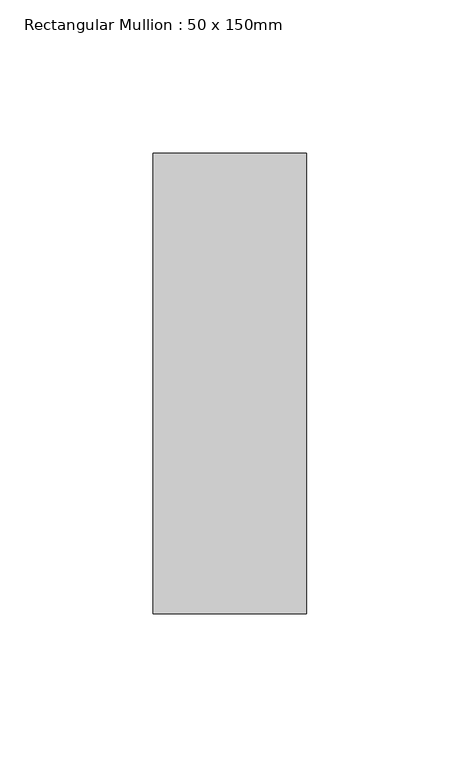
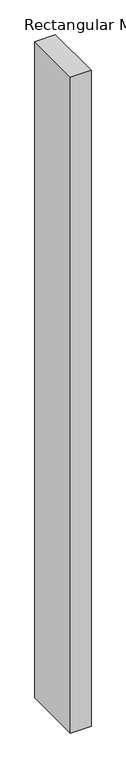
"""IFC4 building model written with IfcOpenShell, lengths in millimetres: member geometry, Rectangular Mullion : 50 x 150mm."""

from ifc_helpers import new_model, si_unit, frame, origin, place, context, project, spatial, polyline, outline, extrude, source, transform, mapped, element, save


def rectangular_mullion_50_x_150mm_9e1a567b(model_context):
    return source(origin(), model_context, "Body", "SweptSolid", [
        extrude(outline(polyline([(0.0, 0.0), (-0.1839035, -50.0), (-1687.7701765, -50.0), (-1687.9825117, 0.0), (0.0, 0.0)])), frame((0.0, -75.0, 0.0), z_axis=(0.0, 1.0, 0.0), x_axis=(0.0, 0.0, 1.0)), (0.0, 0.0, 1.0), 150.0),
    ])


if __name__ == "__main__":
    model = new_model("IFC4")
    model_context = context("Model", 3, world=origin())
    ifc_project = project(units=[si_unit("LENGTHUNIT", "METRE", prefix="MILLI")], contexts=[model_context])
    site = spatial("IfcSite", under=ifc_project)
    building = spatial("IfcBuilding", under=site)
    placement = place(None, origin())
    rectangular_mullion_50_x_150mm_shape = rectangular_mullion_50_x_150mm_9e1a567b(model_context)
    element("IfcMember", 1, ObjectType="Rectangular Mullion : 50 x 150mm", at=placement, inside=building, context=model_context, shape_type="MappedRepresentation", body=[
        mapped(rectangular_mullion_50_x_150mm_shape, transform((0.0, 0.0, 0.0), x_axis=(1.0, 0.0, 0.0), y_axis=(0.0, 1.0, 0.0), z_axis=(0.0, 0.0, 1.0))),
    ])
    save(model, "model.ifc")
